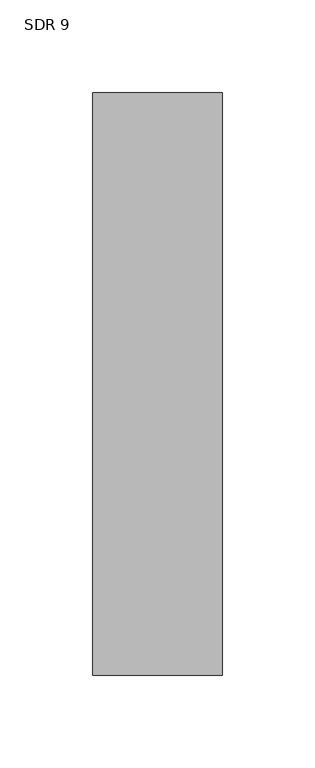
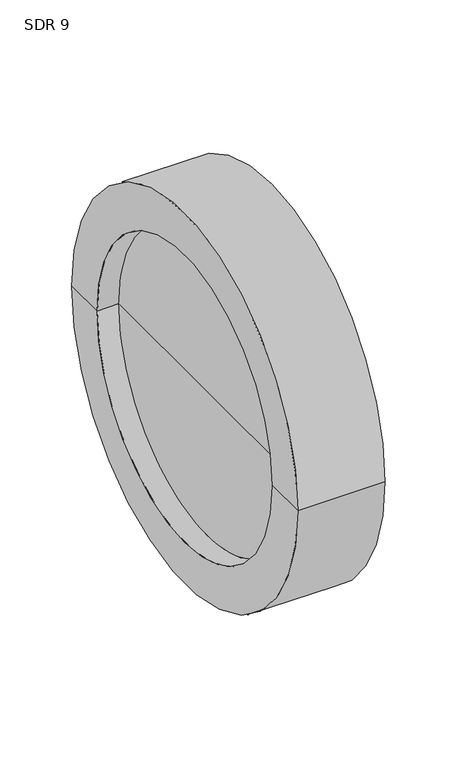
"""IFC4 building model written with IfcOpenShell, lengths in millimetres: pipe fitting geometry, Aquatherm - End Cap Butt-Weld : SDR 9."""

from ifc_helpers import new_model, si_unit, frame, origin, place, context, project, spatial, polyline, circle_curve, source, transform, mapped, element, save
from ifc_brep_helpers import plane_surface, cylinder_surface, revolved_surface, advanced_brep


def sdr_9_fdc80f11(model_context):
    return source(origin(), model_context, "Body", "AdvancedBrep", [
        advanced_brep(
        [(70.104, -157.48, 0.0), (70.104, 157.48, 0.0), (70.104, 0.0, 0.0), (17.526, 0.0, 0.0), (17.526, 122.301, 0.0), (17.526, -122.301, 0.0), (0.0, 122.301, 0.0), (0.0, -122.301, 0.0), (0.0, 157.48, 0.0), (0.0, -157.48, 0.0)],
        [
            (0, 1, circle_curve(frame((70.104, 0.0, 0.0), z_axis=(1.0, 0.0, 0.0), x_axis=(0.0, 1.0, 0.0)), 157.48)),
            (1, 2),
            (2, 0),
            (1, 0, circle_curve(frame((70.104, 0.0, 0.0), z_axis=(1.0, 0.0, 0.0), x_axis=(0.0, 1.0, 0.0)), 157.48)),
            (3, 4),
            (4, 5, circle_curve(frame((17.526, 0.0, 0.0), z_axis=(-1.0, 0.0, 0.0), x_axis=(0.0, 1.0, 0.0)), 122.301)),
            (5, 3),
            (5, 4, circle_curve(frame((17.526, 0.0, 0.0), z_axis=(-1.0, 0.0, 0.0), x_axis=(0.0, 1.0, 0.0)), 122.301)),
            (4, 6),
            (6, 7, circle_curve(frame((0.0, 0.0, 0.0), z_axis=(-1.0, 0.0, 0.0), x_axis=(0.0, 1.0, 0.0)), 122.301)),
            (7, 5),
            (7, 6, circle_curve(frame((0.0, 0.0, 0.0), z_axis=(-1.0, 0.0, 0.0), x_axis=(0.0, 1.0, 0.0)), 122.301)),
            (6, 8),
            (8, 9, circle_curve(frame((0.0, 0.0, 0.0), z_axis=(-1.0, 0.0, 0.0), x_axis=(0.0, 1.0, 0.0)), 157.48)),
            (9, 7),
            (9, 8, circle_curve(frame((0.0, 0.0, 0.0), z_axis=(-1.0, 0.0, 0.0), x_axis=(0.0, 1.0, 0.0)), 157.48)),
            (8, 1),
            (0, 9),
        ],
        [
            plane_surface(frame((70.104, 0.0, 0.0), z_axis=(1.0, 0.0, 0.0), x_axis=(0.0, 1.0, 0.0))),
            plane_surface(frame((17.526, 0.0, 0.0), z_axis=(-1.0, 0.0, 0.0), x_axis=(0.0, 1.0, 0.0))),
            revolved_surface(polyline([(0.0, 122.301, 0.0), (17.526000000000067, 122.301, 0.0)]), (-1373.886, 0.0, 0.0), (-1.0, 0.0, 0.0)),
            plane_surface(frame((0.0, 0.0, 0.0), z_axis=(-1.0, 0.0, 0.0), x_axis=(0.0, 1.0, 0.0))),
            cylinder_surface(frame((-1373.886, 0.0, 0.0), z_axis=(-1.0, 0.0, 0.0), x_axis=(0.0, 1.0, 0.0)), 157.48),
        ],
        [
            (0, [[1, 2, 3]]),
            (0, [[4, -3, -2]]),
            (1, [[5, 6, 7]]),
            (1, [[-7, 8, -5]]),
            (2, [[-6, 9, 10, 11]]),
            (2, [[-8, -11, 12, -9]]),
            (3, [[-10, 13, 14, 15]]),
            (3, [[-12, -15, 16, -13]]),
            (4, [[-14, 17, -1, 18]]),
            (4, [[-16, -18, -4, -17]]),
        ],
    ),
    ])


if __name__ == "__main__":
    model = new_model("IFC4")
    model_context = context("Model", 3, world=origin())
    ifc_project = project(units=[si_unit("LENGTHUNIT", "METRE", prefix="MILLI")], contexts=[model_context])
    site = spatial("IfcSite", under=ifc_project)
    building = spatial("IfcBuilding", under=site)
    placement = place(None, origin())
    sdr_9_shape = sdr_9_fdc80f11(model_context)
    element("IfcPipeFitting", 1, ObjectType="Aquatherm - End Cap Butt-Weld : SDR 9", at=placement, inside=building, context=model_context, shape_type="MappedRepresentation", body=[
        mapped(sdr_9_shape, transform((0.0, 0.0, 0.0), x_axis=(1.0, 0.0, 0.0), y_axis=(0.0, 1.0, 0.0), z_axis=(0.0, 0.0, 1.0))),
    ])
    save(model, "model.ifc")
